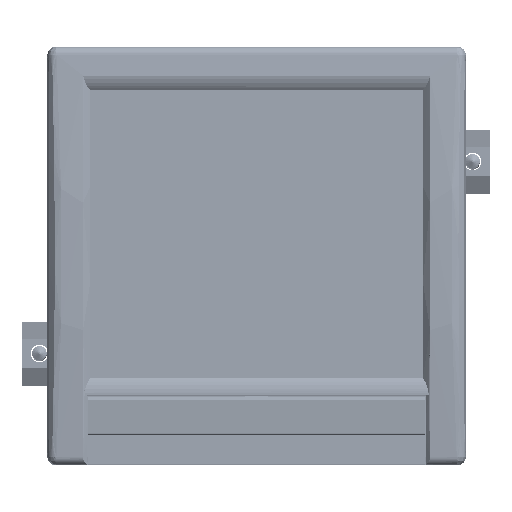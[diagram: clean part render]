
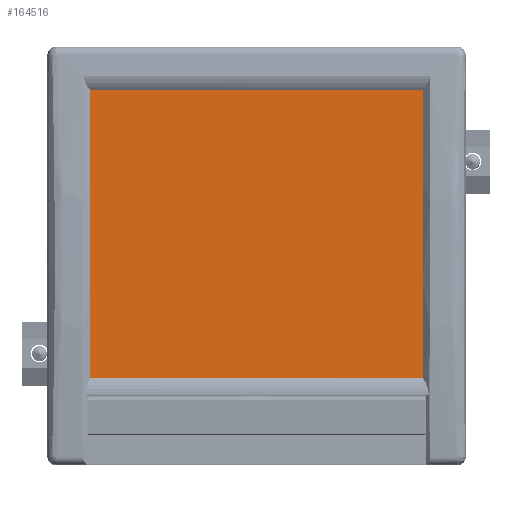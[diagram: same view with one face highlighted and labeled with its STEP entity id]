
A CAD part, top view. The second image highlights one B-rep face of the part: STEP entity #164516.
In plain terms, the highlighted planar face has unit normal (0, 0, 1).
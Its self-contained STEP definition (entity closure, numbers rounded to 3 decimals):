
#53309=DIRECTION('',(-1.,0.,0.));
#53310=VECTOR('',#53309,114.4);
#53311=CARTESIAN_POINT('',(127.9,28.3,16.5));
#53312=LINE('',#53311,#53310);
#53325=DIRECTION('',(0.,-1.,0.));
#53326=VECTOR('',#53325,99.);
#53327=CARTESIAN_POINT('',(127.9,127.3,16.5));
#53328=LINE('',#53327,#53326);
#53334=DIRECTION('',(1.,0.,0.));
#53335=VECTOR('',#53334,114.4);
#53336=CARTESIAN_POINT('',(13.5,127.3,16.5));
#53337=LINE('',#53336,#53335);
#53346=DIRECTION('',(0.,1.,0.));
#53347=VECTOR('',#53346,99.);
#53348=CARTESIAN_POINT('',(13.5,28.3,16.5));
#53349=LINE('',#53348,#53347);
#89285=CARTESIAN_POINT('',(127.9,127.3,16.5));
#89286=CARTESIAN_POINT('',(127.9,28.3,16.5));
#89287=VERTEX_POINT('',#89285);
#89288=VERTEX_POINT('',#89286);
#89289=CARTESIAN_POINT('',(13.5,127.3,16.5));
#89290=VERTEX_POINT('',#89289);
#89291=CARTESIAN_POINT('',(13.5,28.3,16.5));
#89292=VERTEX_POINT('',#89291);
#164502=CARTESIAN_POINT('',(70.4,81.5,16.5));
#164503=DIRECTION('',(0.,0.,1.));
#164504=DIRECTION('',(1.,0.,0.));
#164505=AXIS2_PLACEMENT_3D('',#164502,#164503,#164504);
#164506=PLANE('',#164505);
#164508=ORIENTED_EDGE('',*,*,#164507,.T.);
#164509=ORIENTED_EDGE('',*,*,#164492,.T.);
#164511=ORIENTED_EDGE('',*,*,#164510,.T.);
#164513=ORIENTED_EDGE('',*,*,#164512,.T.);
#164514=EDGE_LOOP('',(#164508,#164509,#164511,#164513));
#164515=FACE_OUTER_BOUND('',#164514,.F.);
#164492=EDGE_CURVE('',#89288,#89292,#53312,.T.);
#164507=EDGE_CURVE('',#89287,#89288,#53328,.T.);
#164510=EDGE_CURVE('',#89292,#89290,#53349,.T.);
#164512=EDGE_CURVE('',#89290,#89287,#53337,.T.);
#164516=ADVANCED_FACE('',(#164515),#164506,.T.);
